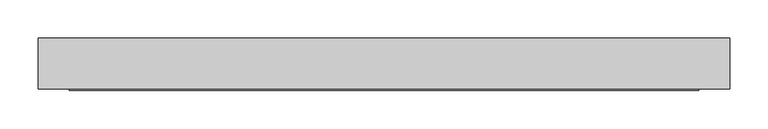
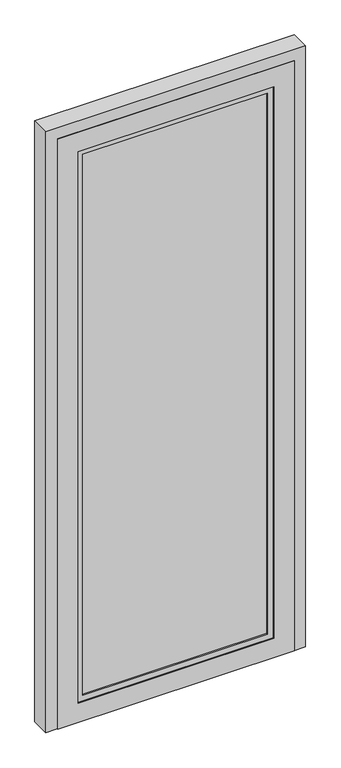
"""IFC4 building model written with IfcOpenShell, lengths in millimetres: plate geometry, ARQ-PA-IN-AluVid-Puerta : ARQ-PA-IN-AluVid-Puerta."""

from ifc_helpers import new_model, si_unit, frame, origin, place, context, project, spatial, polyline, outline, extrude, source, transform, mapped, element, save


def plate_cf4ffe34(model_context):
    return source(origin(), model_context, "Body", "SweptSolid", [
        extrude(outline(polyline([(2200.0, -450.0), (0.0, -450.0), (0.0, -410.0), (2160.0, -410.0), (2160.0, 410.0), (0.0, 410.0), (0.0, 450.0), (2200.0, 450.0), (2200.0, -450.0)])), frame((0.0, -33.0, 0.0), z_axis=(0.0, 1.0, 0.0), x_axis=(0.0, 0.0, 1.0)), (0.0, 0.0, 1.0), 66.0),
        extrude(outline(polyline([(320.0, -10.0), (320.0, -25.0), (-320.0, -25.0), (-320.0, -10.0), (320.0, -10.0)])), frame((0.0, 0.0, 90.0), z_axis=(0.0, 0.0, 1.0), x_axis=(1.0, 0.0, 0.0)), (0.0, 0.0, 1.0), 1980.0),
        extrude(outline(polyline([(2090.0, -340.0), (70.0, -340.0), (70.0, 340.0), (2090.0, 340.0), (2090.0, -340.0)]), holes=[polyline([(2070.0, -320.0), (2070.0, 320.0), (90.0, 320.0), (90.0, -320.0), (2070.0, -320.0)])]), frame((0.0, -30.0, 0.0), z_axis=(0.0, 1.0, 0.0), x_axis=(0.0, 0.0, 1.0)), (0.0, 0.0, 1.0), 25.0),
        extrude(outline(polyline([(2160.0, -410.0), (0.0, -410.0), (0.0, 410.0), (2160.0, 410.0), (2160.0, -410.0)]), holes=[polyline([(2090.0, -340.0), (2090.0, 340.0), (70.0, 340.0), (70.0, -340.0), (2090.0, -340.0)])]), frame((0.0, -35.0, 0.0), z_axis=(0.0, 1.0, 0.0), x_axis=(0.0, 0.0, 1.0)), (0.0, 0.0, 1.0), 35.0),
    ])


if __name__ == "__main__":
    model = new_model("IFC4")
    model_context = context("Model", 3, world=origin())
    ifc_project = project(units=[si_unit("LENGTHUNIT", "METRE", prefix="MILLI")], contexts=[model_context])
    site = spatial("IfcSite", under=ifc_project)
    building = spatial("IfcBuilding", under=site)
    placement = place(None, origin())
    plate_shape = plate_cf4ffe34(model_context)
    element("IfcPlate", 1, ObjectType="ARQ-PA-IN-AluVid-Puerta : ARQ-PA-IN-AluVid-Puerta", at=placement, inside=building, context=model_context, shape_type="MappedRepresentation", body=[
        mapped(plate_shape, transform((0.0, 0.0, 0.0), x_axis=(1.0, 0.0, 0.0), y_axis=(0.0, 1.0, 0.0), z_axis=(0.0, 0.0, 1.0))),
    ])
    save(model, "model.ifc")
